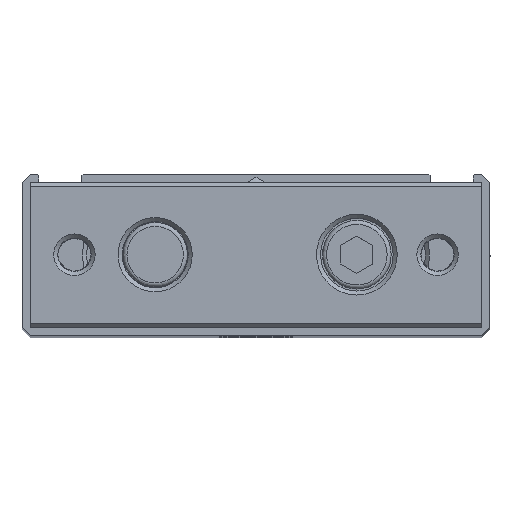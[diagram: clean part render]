
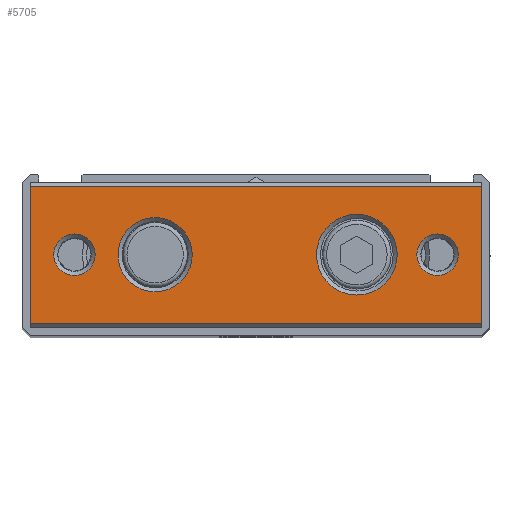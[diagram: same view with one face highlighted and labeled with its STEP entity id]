
A CAD part, top view. The second image highlights one B-rep face of the part: STEP entity #5705.
In plain terms, the highlighted planar face has unit normal (0, 0, 1).
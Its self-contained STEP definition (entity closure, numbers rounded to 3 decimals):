
#3656=CARTESIAN_POINT('',(-28.,-8.5,164.0));
#3657=VERTEX_POINT('',#3656);
#3664=CARTESIAN_POINT('',(-28.,8.5,164.0));
#3665=VERTEX_POINT('',#3664);
#3666=CARTESIAN_POINT('',(-28.,8.5,164.0));
#3667=DIRECTION('',(0.0,-1.0,0.0));
#3668=VECTOR('',#3667,17.0);
#3669=LINE('',#3666,#3668);
#3670=EDGE_CURVE('',#3665,#3657,#3669,.T.);
#3856=CARTESIAN_POINT('',(28.,-8.5,164.0));
#3857=VERTEX_POINT('',#3856);
#3864=CARTESIAN_POINT('',(28.,-8.5,164.0));
#3865=DIRECTION('',(-1.0,0.0,0.0));
#3866=VECTOR('',#3865,56.);
#3867=LINE('',#3864,#3866);
#3868=EDGE_CURVE('',#3857,#3657,#3867,.T.);
#3935=CARTESIAN_POINT('',(28.,8.5,164.0));
#3936=VERTEX_POINT('',#3935);
#3943=CARTESIAN_POINT('',(28.,-8.5,164.0));
#3944=DIRECTION('',(0.0,1.0,0.0));
#3945=VECTOR('',#3944,17.0);
#3946=LINE('',#3943,#3945);
#3947=EDGE_CURVE('',#3857,#3936,#3946,.T.);
#5641=CARTESIAN_POINT('',(17.5,0.,164.0));
#5642=VERTEX_POINT('',#5641);
#5643=CARTESIAN_POINT('',(12.5,0.,164.0));
#5644=DIRECTION('',(0.0,0.0,1.0));
#5645=DIRECTION('',(-1.0,0.0,0.0));
#5646=AXIS2_PLACEMENT_3D('',#5643,#5644,#5645);
#5647=CIRCLE('',#5646,5.0);
#5648=EDGE_CURVE('',#5642,#5642,#5647,.T.);
#5653=CARTESIAN_POINT('',(0.0,-9.,164.0));
#5654=DIRECTION('',(0.0,0.0,1.0));
#5655=DIRECTION('',(1.0,0.0,0.0));
#5656=AXIS2_PLACEMENT_3D('',#5653,#5654,#5655);
#5657=PLANE('',#5656);
#5658=ORIENTED_EDGE('',*,*,#3868,.F.);
#5659=ORIENTED_EDGE('',*,*,#3947,.T.);
#5660=CARTESIAN_POINT('',(-28.,8.5,164.0));
#5661=DIRECTION('',(1.0,0.0,0.0));
#5662=VECTOR('',#5661,56.);
#5663=LINE('',#5660,#5662);
#5664=EDGE_CURVE('',#3665,#3936,#5663,.T.);
#5665=ORIENTED_EDGE('',*,*,#5664,.F.);
#5666=ORIENTED_EDGE('',*,*,#3670,.T.);
#5667=EDGE_LOOP('',(#5658,#5659,#5665,#5666));
#5668=FACE_OUTER_BOUND('',#5667,.T.);
#5669=CARTESIAN_POINT('',(-7.9,0.,164.0));
#5670=VERTEX_POINT('',#5669);
#5671=CARTESIAN_POINT('',(-12.5,0.,164.0));
#5672=DIRECTION('',(0.0,0.0,1.0));
#5673=DIRECTION('',(-1.0,0.0,0.0));
#5674=AXIS2_PLACEMENT_3D('',#5671,#5672,#5673);
#5675=CIRCLE('',#5674,4.6);
#5676=EDGE_CURVE('',#5670,#5670,#5675,.T.);
#5677=ORIENTED_EDGE('',*,*,#5676,.F.);
#5678=EDGE_LOOP('',(#5677));
#5679=FACE_BOUND('',#5678,.T.);
#5680=CARTESIAN_POINT('',(-19.933,0.,164.0));
#5681=VERTEX_POINT('',#5680);
#5682=CARTESIAN_POINT('',(-22.5,0.,164.0));
#5683=DIRECTION('',(0.0,0.0,1.0));
#5684=DIRECTION('',(-1.0,0.0,0.0));
#5685=AXIS2_PLACEMENT_3D('',#5682,#5683,#5684);
#5686=CIRCLE('',#5685,2.567);
#5687=EDGE_CURVE('',#5681,#5681,#5686,.T.);
#5688=ORIENTED_EDGE('',*,*,#5687,.F.);
#5689=EDGE_LOOP('',(#5688));
#5690=FACE_BOUND('',#5689,.T.);
#5691=CARTESIAN_POINT('',(25.067,0.,164.0));
#5692=VERTEX_POINT('',#5691);
#5693=CARTESIAN_POINT('',(22.5,0.,164.0));
#5694=DIRECTION('',(0.0,0.0,1.0));
#5695=DIRECTION('',(-1.0,0.0,0.0));
#5696=AXIS2_PLACEMENT_3D('',#5693,#5694,#5695);
#5697=CIRCLE('',#5696,2.567);
#5698=EDGE_CURVE('',#5692,#5692,#5697,.T.);
#5699=ORIENTED_EDGE('',*,*,#5698,.F.);
#5700=EDGE_LOOP('',(#5699));
#5701=FACE_BOUND('',#5700,.T.);
#5702=ORIENTED_EDGE('',*,*,#5648,.F.);
#5703=EDGE_LOOP('',(#5702));
#5704=FACE_BOUND('',#5703,.T.);
#5705=ADVANCED_FACE('',(#5668,#5679,#5690,#5701,#5704),#5657,.T.);
